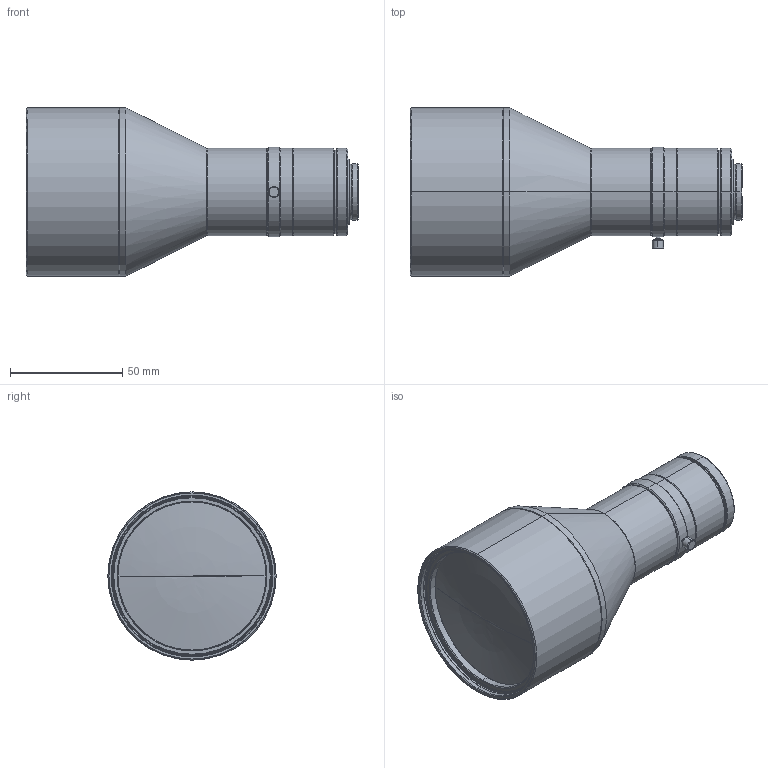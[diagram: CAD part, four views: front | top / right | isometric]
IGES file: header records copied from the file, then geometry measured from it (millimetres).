
Start section: SolidWorks IGES file using analytic representation for surfaces
Bounding box: 147.97 x 75 x 75 mm (x, y, z)
Surface area: 35570.7 mm2 (no closed solid volume)
Topology: 0 solids, 0 shells, 140 faces, 2630 edges, 2628 vertices
Faces by surface type: revolution 120, bspline 20
